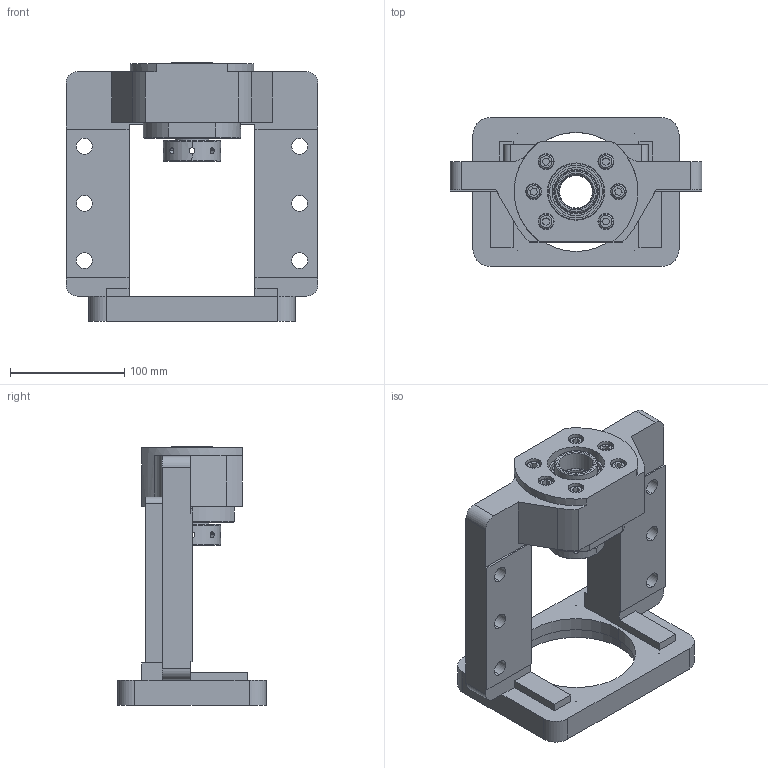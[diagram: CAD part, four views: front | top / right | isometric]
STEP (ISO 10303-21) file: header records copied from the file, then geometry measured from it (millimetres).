
FILE_DESCRIPTION (( 'STEP AP203' ), '1' );
FILE_NAME ('MBCS30L-G.STEP', '2024-10-18T05:53:55', ( '' ), ( '' ), 'SwSTEP 2.0', 'SolidWorks 2018', '' );
FILE_SCHEMA (( 'CONFIG_CONTROL_DESIGN' ));
Length unit declared in the file: millimetre
Products named in the file (1): MBCS30L-G
Bounding box: 220 x 130 x 226 mm (x, y, z)
Surface area: 199749.5 mm2 (no closed solid volume)
Topology: 0 solids, 22 shells, 343 faces, 962 edges, 636 vertices
Faces by surface type: cylinder 127, plane 121, cone 60, torus 26, bspline 9
Entity records: 24749 total; most frequent: CARTESIAN_POINT 15884, DIRECTION 1893, ORIENTED_EDGE 1686, EDGE_CURVE 954, AXIS2_PLACEMENT_3D 733, VERTEX_POINT 636, LINE 427, VECTOR 427
